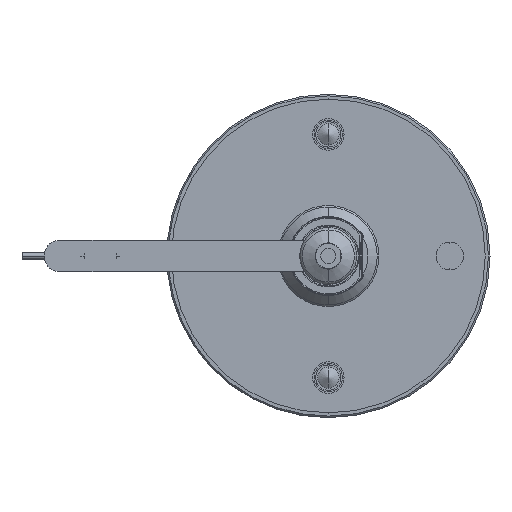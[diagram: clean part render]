
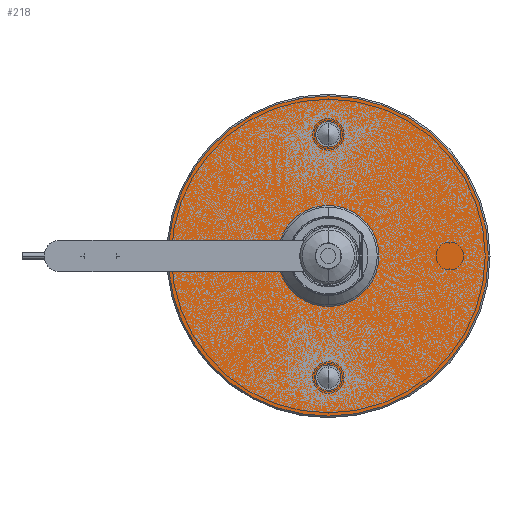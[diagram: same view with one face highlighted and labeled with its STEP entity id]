
A CAD part, front view. The second image highlights one B-rep face of the part: STEP entity #218.
In plain terms, the highlighted planar face has unit normal (0, -1, 0).
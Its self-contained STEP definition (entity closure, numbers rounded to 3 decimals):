
#101 = CARTESIAN_POINT ( 'NONE',  ( 0., 38.122, -34.5 ) ) ;
#218 = ADVANCED_FACE ( 'NONE', ( #17791, #617, #15906 ), #6404, .F. ) ;
#409 = ORIENTED_EDGE ( 'NONE', *, *, #12928, .F. ) ;
#589 = VERTEX_POINT ( 'NONE', #5718 ) ;
#617 = FACE_BOUND ( 'NONE', #4993, .T. ) ;
#1124 = EDGE_CURVE ( 'NONE', #24070, #7002, #18022, .T. ) ;
#1170 = ORIENTED_EDGE ( 'NONE', *, *, #10985, .F. ) ;
#1655 = CARTESIAN_POINT ( 'NONE',  ( 0., 38.122, -50.7 ) ) ;
#1698 = AXIS2_PLACEMENT_3D ( 'NONE', #10313, #4186, #17926 ) ;
#1836 = VERTEX_POINT ( 'NONE', #11978 ) ;
#2081 = CIRCLE ( 'NONE', #3281, 16. ) ;
#2130 = AXIS2_PLACEMENT_3D ( 'NONE', #24066, #6931, #22309 ) ;
#2424 = ORIENTED_EDGE ( 'NONE', *, *, #9825, .F. ) ;
#2682 = DIRECTION ( 'NONE',  ( 0., 0., 1. ) ) ;
#2703 = CIRCLE ( 'NONE', #9122, 50.7 ) ;
#2744 = DIRECTION ( 'NONE',  ( 0., -1., 0. ) ) ;
#3247 = CARTESIAN_POINT ( 'NONE',  ( -50.7, 38.122, -5. ) ) ;
#3281 = AXIS2_PLACEMENT_3D ( 'NONE', #11953, #19547, #22307 ) ;
#3720 = CIRCLE ( 'NONE', #1698, 16. ) ;
#3990 = VECTOR ( 'NONE', #22014, 1000. ) ;
#4023 = AXIS2_PLACEMENT_3D ( 'NONE', #21663, #4534, #12176 ) ;
#4077 = VERTEX_POINT ( 'NONE', #10077 ) ;
#4101 = ORIENTED_EDGE ( 'NONE', *, *, #22630, .T. ) ;
#4186 = DIRECTION ( 'NONE',  ( 0., -1., 0. ) ) ;
#4204 = DIRECTION ( 'NONE',  ( 0., -1., 0. ) ) ;
#4342 = AXIS2_PLACEMENT_3D ( 'NONE', #6083, #4204, #15589 ) ;
#4473 = CIRCLE ( 'NONE', #6867, 4. ) ;
#4534 = DIRECTION ( 'NONE',  ( 0., 1., 0. ) ) ;
#4993 = EDGE_LOOP ( 'NONE', ( #9875, #18963 ) ) ;
#5518 = VERTEX_POINT ( 'NONE', #101 ) ;
#5718 = CARTESIAN_POINT ( 'NONE',  ( 0., 38.122, 16. ) ) ;
#5855 = DIRECTION ( 'NONE',  ( 0., -1., 0. ) ) ;
#5936 = DIRECTION ( 'NONE',  ( 0., 0., 1. ) ) ;
#5986 = VERTEX_POINT ( 'NONE', #8431 ) ;
#6026 = AXIS2_PLACEMENT_3D ( 'NONE', #15072, #22701, #5936 ) ;
#6083 = CARTESIAN_POINT ( 'NONE',  ( 0., 38.122, 38.5 ) ) ;
#6160 = CARTESIAN_POINT ( 'NONE',  ( 0., 38.122, 42.5 ) ) ;
#6195 = VERTEX_POINT ( 'NONE', #6160 ) ;
#6404 = PLANE ( 'NONE',  #4023 ) ;
#6514 = CARTESIAN_POINT ( 'NONE',  ( 0., 38.122, 0. ) ) ;
#6867 = AXIS2_PLACEMENT_3D ( 'NONE', #15830, #14086, #2682 ) ;
#6931 = DIRECTION ( 'NONE',  ( 0., -1., 0. ) ) ;
#6949 = CIRCLE ( 'NONE', #2130, 16. ) ;
#7002 = VERTEX_POINT ( 'NONE', #9150 ) ;
#7332 = CARTESIAN_POINT ( 'NONE',  ( -50.7, 38.122, 5. ) ) ;
#7511 = CARTESIAN_POINT ( 'NONE',  ( 0., 38.122, 0. ) ) ;
#7736 = CARTESIAN_POINT ( 'NONE',  ( 0., 38.122, -38.5 ) ) ;
#8402 = CIRCLE ( 'NONE', #20784, 4. ) ;
#8431 = CARTESIAN_POINT ( 'NONE',  ( -15.199, 38.122, 5. ) ) ;
#8522 = DIRECTION ( 'NONE',  ( 0., 0., -1. ) ) ;
#9122 = AXIS2_PLACEMENT_3D ( 'NONE', #9660, #21511, #17286 ) ;
#9150 = CARTESIAN_POINT ( 'NONE',  ( -50.453, 38.122, 5. ) ) ;
#9206 = ORIENTED_EDGE ( 'NONE', *, *, #9425, .T. ) ;
#9425 = EDGE_CURVE ( 'NONE', #11091, #24070, #2703, .T. ) ;
#9660 = CARTESIAN_POINT ( 'NONE',  ( 0., 38.122, 0. ) ) ;
#9825 = EDGE_CURVE ( 'NONE', #6195, #4077, #21096, .T. ) ;
#9875 = ORIENTED_EDGE ( 'NONE', *, *, #23665, .F. ) ;
#10077 = CARTESIAN_POINT ( 'NONE',  ( 0., 38.122, 34.5 ) ) ;
#10313 = CARTESIAN_POINT ( 'NONE',  ( 0., 38.122, 0. ) ) ;
#10806 = AXIS2_PLACEMENT_3D ( 'NONE', #6514, #2744, #8522 ) ;
#10985 = EDGE_CURVE ( 'NONE', #4077, #6195, #4473, .T. ) ;
#11076 = EDGE_LOOP ( 'NONE', ( #19562, #9206, #18285, #4101, #409, #24117, #24704, #22868 ) ) ;
#11091 = VERTEX_POINT ( 'NONE', #1655 ) ;
#11199 = VERTEX_POINT ( 'NONE', #15559 ) ;
#11953 = CARTESIAN_POINT ( 'NONE',  ( 0., 38.122, 0. ) ) ;
#11978 = CARTESIAN_POINT ( 'NONE',  ( 0., 38.122, -16. ) ) ;
#12176 = DIRECTION ( 'NONE',  ( 0., 0., 1. ) ) ;
#12431 = CARTESIAN_POINT ( 'NONE',  ( 0., 38.122, 50.7 ) ) ;
#12804 = EDGE_CURVE ( 'NONE', #11199, #1836, #3720, .T. ) ;
#12928 = EDGE_CURVE ( 'NONE', #589, #5986, #2081, .T. ) ;
#13350 = VERTEX_POINT ( 'NONE', #21502 ) ;
#13389 = DIRECTION ( 'NONE',  ( 0., 0., -1. ) ) ;
#13578 = EDGE_LOOP ( 'NONE', ( #1170, #2424 ) ) ;
#13623 = CIRCLE ( 'NONE', #6026, 4. ) ;
#13958 = VERTEX_POINT ( 'NONE', #22437 ) ;
#14086 = DIRECTION ( 'NONE',  ( 0., -1., 0. ) ) ;
#14953 = DIRECTION ( 'NONE',  ( 1., 0., 0. ) ) ;
#15072 = CARTESIAN_POINT ( 'NONE',  ( 0., 38.122, -38.5 ) ) ;
#15559 = CARTESIAN_POINT ( 'NONE',  ( -15.199, 38.122, -5. ) ) ;
#15580 = CIRCLE ( 'NONE', #10806, 50.7 ) ;
#15589 = DIRECTION ( 'NONE',  ( 0., 0., 1. ) ) ;
#15830 = CARTESIAN_POINT ( 'NONE',  ( 0., 38.122, 38.5 ) ) ;
#15906 = FACE_OUTER_BOUND ( 'NONE', #11076, .T. ) ;
#16019 = EDGE_CURVE ( 'NONE', #13958, #11091, #15580, .T. ) ;
#16132 = EDGE_CURVE ( 'NONE', #13958, #11199, #16141, .T. ) ;
#16141 = LINE ( 'NONE', #3247, #3990 ) ;
#17216 = EDGE_CURVE ( 'NONE', #13350, #5518, #8402, .T. ) ;
#17286 = DIRECTION ( 'NONE',  ( 0., 0., -1. ) ) ;
#17482 = DIRECTION ( 'NONE',  ( 0., 0., 1. ) ) ;
#17791 = FACE_BOUND ( 'NONE', #13578, .T. ) ;
#17926 = DIRECTION ( 'NONE',  ( 0., 0., -1. ) ) ;
#18022 = CIRCLE ( 'NONE', #24427, 50.7 ) ;
#18285 = ORIENTED_EDGE ( 'NONE', *, *, #1124, .T. ) ;
#18443 = EDGE_CURVE ( 'NONE', #1836, #589, #6949, .T. ) ;
#18861 = DIRECTION ( 'NONE',  ( 0., -1., 0. ) ) ;
#18963 = ORIENTED_EDGE ( 'NONE', *, *, #17216, .F. ) ;
#19547 = DIRECTION ( 'NONE',  ( 0., -1., 0. ) ) ;
#19562 = ORIENTED_EDGE ( 'NONE', *, *, #16019, .T. ) ;
#20784 = AXIS2_PLACEMENT_3D ( 'NONE', #7736, #5855, #17482 ) ;
#21096 = CIRCLE ( 'NONE', #4342, 4. ) ;
#21502 = CARTESIAN_POINT ( 'NONE',  ( 0., 38.122, -42.5 ) ) ;
#21511 = DIRECTION ( 'NONE',  ( 0., -1., 0. ) ) ;
#21663 = CARTESIAN_POINT ( 'NONE',  ( -50.7, 38.122, 0. ) ) ;
#22014 = DIRECTION ( 'NONE',  ( 1., 0., 0. ) ) ;
#22307 = DIRECTION ( 'NONE',  ( 0., 0., -1. ) ) ;
#22309 = DIRECTION ( 'NONE',  ( 0., 0., -1. ) ) ;
#22437 = CARTESIAN_POINT ( 'NONE',  ( -50.453, 38.122, -5. ) ) ;
#22630 = EDGE_CURVE ( 'NONE', #7002, #5986, #24460, .T. ) ;
#22701 = DIRECTION ( 'NONE',  ( 0., -1., 0. ) ) ;
#22868 = ORIENTED_EDGE ( 'NONE', *, *, #16132, .F. ) ;
#23665 = EDGE_CURVE ( 'NONE', #5518, #13350, #13623, .T. ) ;
#24066 = CARTESIAN_POINT ( 'NONE',  ( 0., 38.122, 0. ) ) ;
#24070 = VERTEX_POINT ( 'NONE', #12431 ) ;
#24117 = ORIENTED_EDGE ( 'NONE', *, *, #18443, .F. ) ;
#24388 = VECTOR ( 'NONE', #14953, 1000. ) ;
#24427 = AXIS2_PLACEMENT_3D ( 'NONE', #7511, #18861, #13389 ) ;
#24460 = LINE ( 'NONE', #7332, #24388 ) ;
#24704 = ORIENTED_EDGE ( 'NONE', *, *, #12804, .F. ) ;
